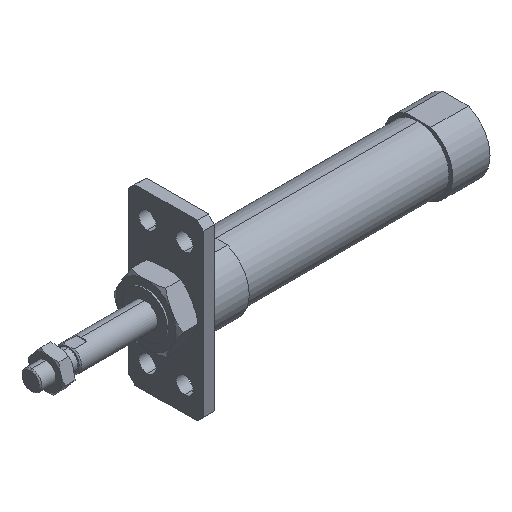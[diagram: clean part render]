
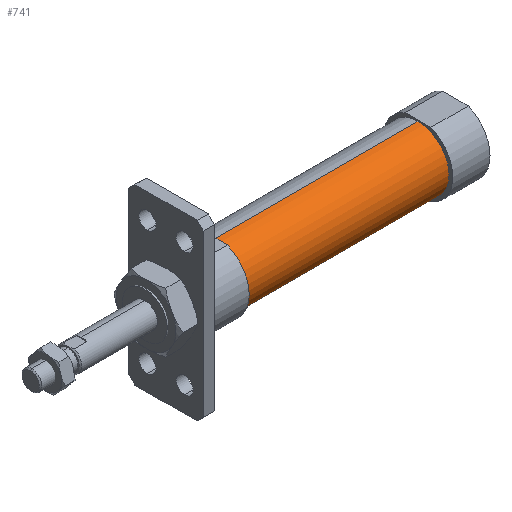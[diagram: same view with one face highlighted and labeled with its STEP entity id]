
A CAD part, isometric view. The second image highlights one B-rep face of the part: STEP entity #741.
In plain terms, the highlighted cylindrical face has radius 12.5 mm (diameter 25 mm), a partial arc.
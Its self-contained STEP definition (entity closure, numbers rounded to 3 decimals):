
#78 = CYLINDRICAL_SURFACE ( 'NONE', #3264, 12.5 ) ;
#155 = CIRCLE ( 'NONE', #221, 12.5 ) ;
#175 = CARTESIAN_POINT ( 'NONE',  ( 74., 0., 0. ) ) ;
#221 = AXIS2_PLACEMENT_3D ( 'NONE', #175, #1352, #1602 ) ;
#310 = CARTESIAN_POINT ( 'NONE',  ( 156., 0., -12.5 ) ) ;
#514 = AXIS2_PLACEMENT_3D ( 'NONE', #911, #3205, #2907 ) ;
#545 = VERTEX_POINT ( 'NONE', #767 ) ;
#550 = FACE_OUTER_BOUND ( 'NONE', #1077, .T. ) ;
#551 = EDGE_CURVE ( 'NONE', #545, #850, #2693, .T. ) ;
#640 = CARTESIAN_POINT ( 'NONE',  ( -6.469, 0., -12.5 ) ) ;
#741 = ADVANCED_FACE ( 'NONE', ( #550 ), #78, .T. ) ;
#767 = CARTESIAN_POINT ( 'NONE',  ( 156., 0., 12.5 ) ) ;
#782 = DIRECTION ( 'NONE',  ( -1., 0., 0. ) ) ;
#850 = VERTEX_POINT ( 'NONE', #2557 ) ;
#911 = CARTESIAN_POINT ( 'NONE',  ( 156., 0., 0. ) ) ;
#997 = VECTOR ( 'NONE', #782, 1000. ) ;
#1056 = CIRCLE ( 'NONE', #514, 12.5 ) ;
#1077 = EDGE_LOOP ( 'NONE', ( #3214, #1547, #1604, #2859 ) ) ;
#1210 = VERTEX_POINT ( 'NONE', #2577 ) ;
#1352 = DIRECTION ( 'NONE',  ( -1., 0., 0. ) ) ;
#1547 = ORIENTED_EDGE ( 'NONE', *, *, #3427, .T. ) ;
#1602 = DIRECTION ( 'NONE',  ( 0., 0., 1. ) ) ;
#1604 = ORIENTED_EDGE ( 'NONE', *, *, #551, .T. ) ;
#1734 = LINE ( 'NONE', #640, #2204 ) ;
#1750 = VERTEX_POINT ( 'NONE', #310 ) ;
#1918 = CARTESIAN_POINT ( 'NONE',  ( -6.469, 0., 12.5 ) ) ;
#2045 = DIRECTION ( 'NONE',  ( -1., 0., 0. ) ) ;
#2204 = VECTOR ( 'NONE', #2045, 1000. ) ;
#2379 = EDGE_CURVE ( 'NONE', #1210, #850, #155, .T. ) ;
#2557 = CARTESIAN_POINT ( 'NONE',  ( 74., 0., 12.5 ) ) ;
#2577 = CARTESIAN_POINT ( 'NONE',  ( 74., 0., -12.5 ) ) ;
#2693 = LINE ( 'NONE', #1918, #997 ) ;
#2741 = CARTESIAN_POINT ( 'NONE',  ( -6.469, 0., 0. ) ) ;
#2859 = ORIENTED_EDGE ( 'NONE', *, *, #2379, .F. ) ;
#2907 = DIRECTION ( 'NONE',  ( 0., 0., 1. ) ) ;
#3068 = DIRECTION ( 'NONE',  ( -1., 0., 0. ) ) ;
#3094 = DIRECTION ( 'NONE',  ( 0., 0., 1. ) ) ;
#3205 = DIRECTION ( 'NONE',  ( -1., 0., 0. ) ) ;
#3214 = ORIENTED_EDGE ( 'NONE', *, *, #3370, .F. ) ;
#3264 = AXIS2_PLACEMENT_3D ( 'NONE', #2741, #3068, #3094 ) ;
#3370 = EDGE_CURVE ( 'NONE', #1750, #1210, #1734, .T. ) ;
#3427 = EDGE_CURVE ( 'NONE', #1750, #545, #1056, .T. ) ;
